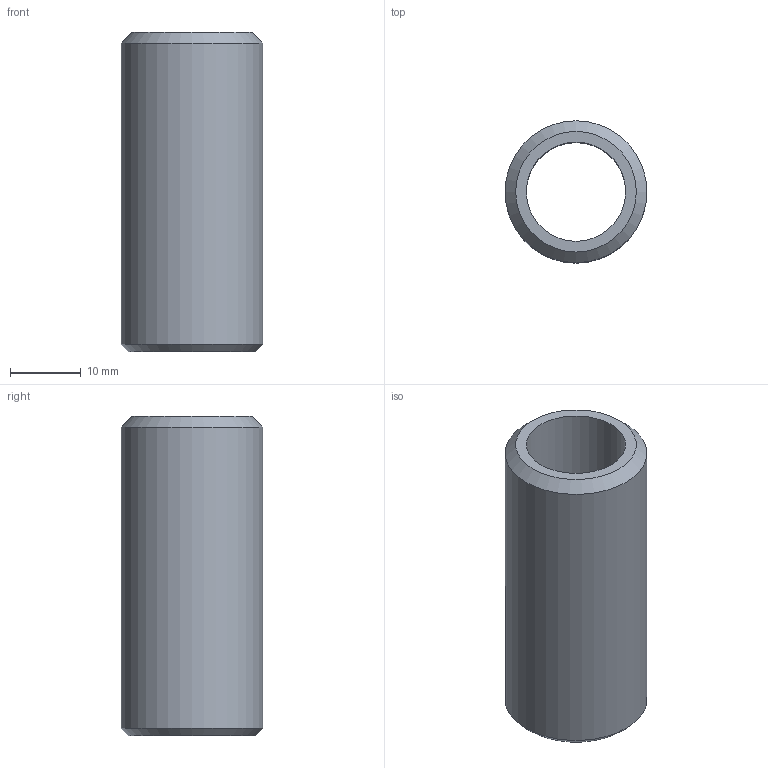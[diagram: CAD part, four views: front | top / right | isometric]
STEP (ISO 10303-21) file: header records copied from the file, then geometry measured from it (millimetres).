
FILE_DESCRIPTION(/* description */ ('','CAx-IF Rec.Pracs.---Representation and Presentation of Product Manufacturing Information (PMI)---4.0---2014-10-13'),/* implementation_level */ '2;1');
FILE_NAME(/* name */ 'rod45.step',/* time_stamp */ '2025-03-18T20:44:28+01:00',/* author */ (''),/* organization */ (''),/* preprocessor_version */ 'ST-DEVELOPER v20',/* originating_system */ 'Autodesk Translation Framework v13.20.0.188',/* authorisation */ '');
FILE_SCHEMA (('AP242_MANAGED_MODEL_BASED_3D_ENGINEERING_MIM_LF { 1 0 10303 442 1 1 4 }'));
Length unit declared in the file: millimetre
Products named in the file (1): rod
Bounding box: 20 x 20 x 45 mm (x, y, z)
Volume: 7112.4 mm3; surface area: 5030.8 mm2
Topology: 1 solids, 1 shells, 6 faces, 10 edges, 6 vertices
Faces by surface type: cylinder 2, cone 2, plane 2
Full cylindrical faces by diameter (mm): 14 x1, 20 x1
Entity records: 181 total; most frequent: DIRECTION 30, CARTESIAN_POINT 23, ORIENTED_EDGE 20, AXIS2_PLACEMENT_3D 13, EDGE_CURVE 10, EDGE_LOOP 8, FACE_OUTER_BOUND 6, CIRCLE 6
